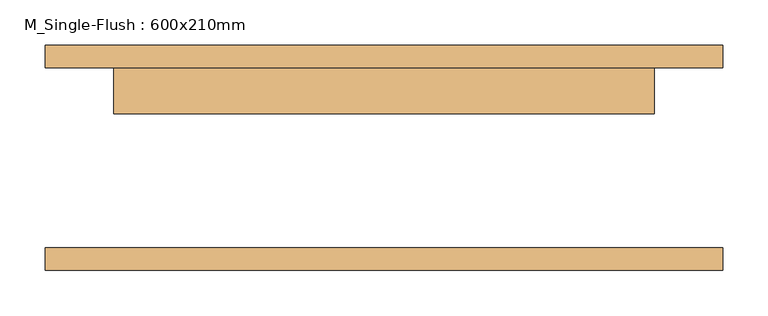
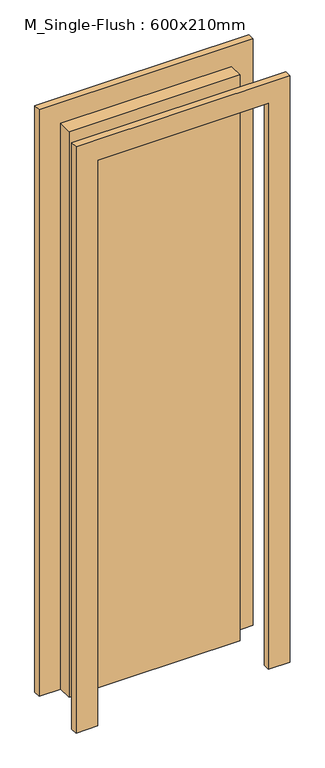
"""IFC4 building model written with IfcOpenShell, lengths in millimetres: door geometry, M_Single-Flush : 600x210mm."""

from ifc_helpers import new_model, si_unit, frame, origin, origin_with_axes, place, context, project, spatial, polyline, outline, extrude, source, transform, mapped, element, save


def m_single_flush_600x210mm_136d0241(model_context):
    return source(origin(), model_context, "Body", "SweptSolid", [
        extrude(outline(polyline([(300.0, 49.0), (-300.0, 49.0), (-300.0, 100.0), (300.0, 100.0), (300.0, 49.0)])), origin_with_axes(), (0.0, 0.0, 1.0), 2100.0),
        extrude(outline(polyline([(2176.0, -376.0), (0.0, -376.0), (0.0, -300.0), (2100.0, -300.0), (2100.0, 300.0), (0.0, 300.0), (0.0, 376.0), (2176.0, 376.0), (2176.0, -376.0)])), frame((0.0, 100.0, 0.0), z_axis=(0.0, 1.0, 0.0), x_axis=(0.0, 0.0, 1.0)), (0.0, 0.0, 1.0), 25.0),
        extrude(outline(polyline([(2176.0, 376.0), (2176.0, -376.0), (0.0, -376.0), (0.0, -300.0), (2100.0, -300.0), (2100.0, 300.0), (0.0, 300.0), (0.0, 376.0), (2176.0, 376.0)])), frame((0.0, -125.0, 0.0), z_axis=(0.0, 1.0, 0.0), x_axis=(0.0, 0.0, 1.0)), (0.0, 0.0, 1.0), 25.0),
    ])


if __name__ == "__main__":
    model = new_model("IFC4")
    model_context = context("Model", 3, world=origin())
    ifc_project = project(units=[si_unit("LENGTHUNIT", "METRE", prefix="MILLI")], contexts=[model_context])
    site = spatial("IfcSite", under=ifc_project)
    building = spatial("IfcBuilding", under=site)
    placement = place(None, origin())
    m_single_flush_600x210mm_shape = m_single_flush_600x210mm_136d0241(model_context)
    element("IfcDoor", 1, ObjectType="M_Single-Flush : 600x210mm", at=placement, inside=building, context=model_context, shape_type="MappedRepresentation", body=[
        mapped(m_single_flush_600x210mm_shape, transform((0.0, 0.0, 0.0), x_axis=(1.0, 0.0, 0.0), y_axis=(0.0, 1.0, 0.0), z_axis=(0.0, 0.0, 1.0))),
    ])
    save(model, "model.ifc")
